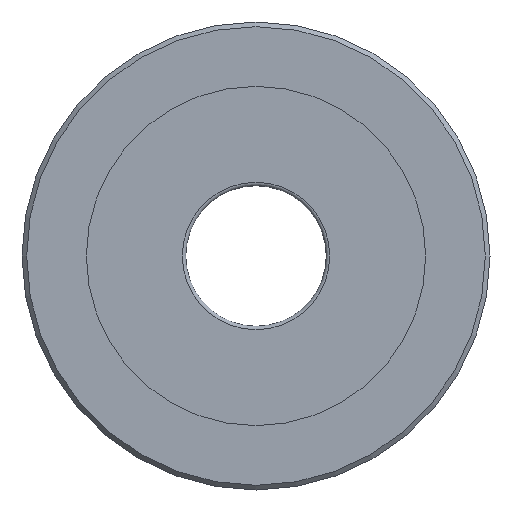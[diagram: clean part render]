
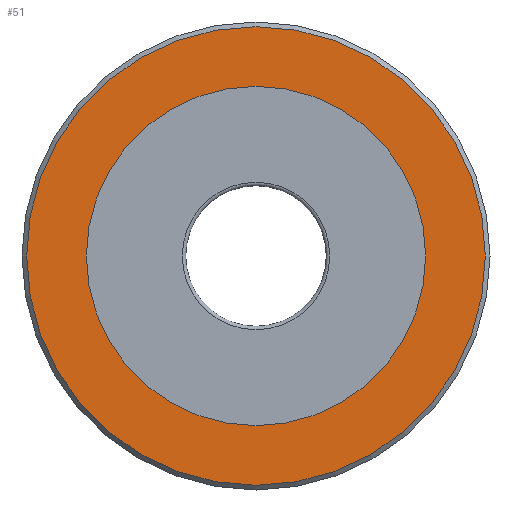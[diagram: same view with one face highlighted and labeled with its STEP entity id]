
A CAD part, left-side view. The second image highlights one B-rep face of the part: STEP entity #51.
In plain terms, the highlighted planar face has unit normal (-1, 0, 0).
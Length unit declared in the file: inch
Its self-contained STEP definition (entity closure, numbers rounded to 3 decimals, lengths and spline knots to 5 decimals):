
#24=CARTESIAN_POINT('',(10.75,34.3,0.));
#25=VERTEX_POINT('',#24);
#26=CARTESIAN_POINT('',(10.75,24.5,0.));
#27=DIRECTION('',(-1.,0.,0.));
#28=DIRECTION('',(0.,1.,0.));
#29=AXIS2_PLACEMENT_3D('',#26,#27,#28);
#30=CIRCLE('',#29,9.8);
#31=EDGE_CURVE('',#25,#25,#30,.T.);
#32=ORIENTED_EDGE('',*,*,#31,.T.);
#33=EDGE_LOOP('',(#32));
#34=FACE_OUTER_BOUND('',#33,.T.);
#35=CARTESIAN_POINT('',(10.75,31.75,0.));
#36=VERTEX_POINT('',#35);
#37=CARTESIAN_POINT('',(10.75,24.5,0.));
#38=DIRECTION('',(-1.,0.,0.));
#39=DIRECTION('',(0.,1.,0.));
#40=AXIS2_PLACEMENT_3D('',#37,#38,#39);
#41=CIRCLE('',#40,7.25);
#42=EDGE_CURVE('',#36,#36,#41,.T.);
#43=ORIENTED_EDGE('',*,*,#42,.F.);
#44=EDGE_LOOP('',(#43));
#45=FACE_BOUND('',#44,.T.);
#46=CARTESIAN_POINT('',(10.75,33.025,0.));
#47=DIRECTION('',(-1.,0.,0.));
#48=DIRECTION('',(0.,1.,0.));
#49=AXIS2_PLACEMENT_3D('',#46,#47,#48);
#50=PLANE('',#49);
#51=ADVANCED_FACE('',(#34,#45),#50,.T.);
